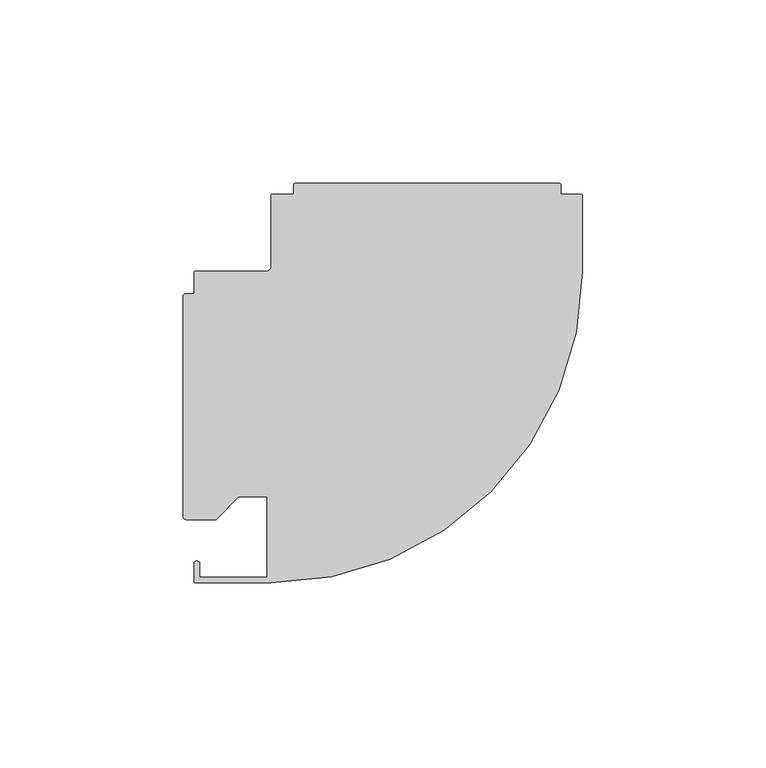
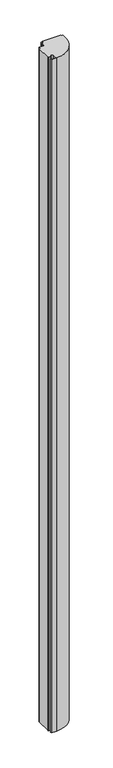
"""IFC4 building model written with IfcOpenShell, lengths in millimetres: member geometry, Прямоугольный импост : AMG-1-Профиль 85Х85 Угловой 1 сторона Верт Л."""

from ifc_helpers import new_model, si_unit, point, frame, frame_2d, origin, place, context, project, spatial, polyline, circle_curve, trimmed, segment, composite_curve, outline, extrude, source, transform, mapped, element, save


def member_2dd30770(model_context):
    return source(origin(), model_context, "Body", "SweptSolid", [
        extrude(outline(composite_curve([segment(trimmed(circle_curve(frame_2d((-105.2, -36.8999999)), 0.8), [point((-105.9953124, -36.8135237))], [point((-105.2, -36.0999999))], False, "CARTESIAN"), True, "CONTINUOUS"), segment(polyline([(-105.2, -36.0999999), (-104.5, -36.4566677), (-104.5, -40.5999999), (-86.0, -40.5999999), (-86.0, -18.6999999), (-93.85, -18.6999999), (-100.0, -24.8499999), (-108.0953124, -24.8499999)]), True, "CONTINUOUS"), segment(trimmed(circle_curve(frame_2d((-108.0953124, -24.0499999)), 0.8), [point((-108.0953124, -24.8499999))], [point((-108.8953124, -24.0499999))], False, "CARTESIAN"), True, "CONTINUOUS"), segment(polyline([(-108.8953124, -24.0499999), (-108.8953124, 36.1500001)]), True, "CONTINUOUS"), segment(trimmed(circle_curve(frame_2d((-108.3953124, 36.1500001)), 0.5), [point((-108.8953124, 36.1500001))], [point((-108.3953124, 36.6500001))], False, "CARTESIAN"), True, "CONTINUOUS"), segment(polyline([(-108.3953124, 36.6500001), (-105.9953124, 36.6500001), (-105.9953124, 42.331695)]), True, "CONTINUOUS"), segment(trimmed(circle_curve(frame_2d((-105.5, 42.4000001)), 0.5), [point((-105.9953124, 42.331695))], [point((-105.5, 42.9000001))], False, "CARTESIAN"), True, "CONTINUOUS"), segment(polyline([(-105.5, 42.9000001), (-86.0, 42.9000001)]), True, "CONTINUOUS"), segment(trimmed(circle_curve(frame_2d((-86.0, 43.9000001)), 1.0), [point((-86.0, 42.9000001))], [point((-85.0, 43.9000001))], True, "CARTESIAN"), True, "CONTINUOUS"), segment(polyline([(-85.0, 43.9000001), (-85.0, 63.4000001)]), True, "CONTINUOUS"), segment(trimmed(circle_curve(frame_2d((-84.5, 63.4000001)), 0.5), [point((-85.0, 63.4000001))], [point((-84.5, 63.9000001))], False, "CARTESIAN"), True, "CONTINUOUS"), segment(polyline([(-84.5, 63.9000001), (-78.75, 63.9000001), (-78.75, 66.3000001)]), True, "CONTINUOUS"), segment(trimmed(circle_curve(frame_2d((-78.25, 66.3000001)), 0.5), [point((-78.75, 66.3000001))], [point((-78.25, 66.8000001))], False, "CARTESIAN"), True, "CONTINUOUS"), segment(polyline([(-78.25, 66.8000001), (-6.35, 66.8000001)]), True, "CONTINUOUS"), segment(trimmed(circle_curve(frame_2d((-6.35, 66.3000001)), 0.5), [point((-6.35, 66.8000001))], [point((-5.85, 66.3000001))], False, "CARTESIAN"), True, "CONTINUOUS"), segment(polyline([(-5.85, 66.3000001), (-5.85, 63.9000001), (-0.5, 63.9000001)]), True, "CONTINUOUS"), segment(trimmed(circle_curve(frame_2d((-0.5, 63.4000001)), 0.5), [point((-0.5, 63.9000001))], [point((0.0, 63.4000001))], False, "CARTESIAN"), True, "CONTINUOUS"), segment(polyline([(0.0, 63.4000001), (0.0, 42.9000001)]), True, "CONTINUOUS"), segment(trimmed(circle_curve(frame_2d((-85.0, 42.9000001)), 85.0), [point((0.0, 42.9000001))], [point((-85.0, -42.0999999))], False, "CARTESIAN"), True, "CONTINUOUS"), segment(polyline([(-85.0, -42.0999999), (-105.4953124, -42.0999999)]), True, "CONTINUOUS"), segment(trimmed(circle_curve(frame_2d((-105.4953124, -41.5999999)), 0.5), [point((-105.4953124, -42.0999999))], [point((-105.9953124, -41.5999999))], False, "CARTESIAN"), True, "CONTINUOUS"), segment(polyline([(-105.9953124, -41.5999999), (-105.9953124, -36.8135237)]), True, "CONTINUOUS")], self_intersect=False)), frame((0.0, 0.0, -2800.0), z_axis=(0.0, 0.0, 1.0), x_axis=(1.0, 0.0, 0.0)), (0.0, 0.0, 1.0), 2800.0),
    ])


if __name__ == "__main__":
    model = new_model("IFC4")
    model_context = context("Model", 3, world=origin())
    ifc_project = project(units=[si_unit("LENGTHUNIT", "METRE", prefix="MILLI")], contexts=[model_context])
    site = spatial("IfcSite", under=ifc_project)
    building = spatial("IfcBuilding", under=site)
    placement = place(None, origin())
    member_shape = member_2dd30770(model_context)
    element("IfcMember", 1, ObjectType="Прямоугольный импост : AMG-1-Профиль 85Х85 Угловой 1 сторона Верт Л", at=placement, inside=building, context=model_context, shape_type="MappedRepresentation", body=[
        mapped(member_shape, transform((0.0, 0.0, 0.0), x_axis=(1.0, 0.0, 0.0), y_axis=(0.0, 1.0, 0.0), z_axis=(0.0, 0.0, 1.0))),
    ])
    save(model, "model.ifc")
